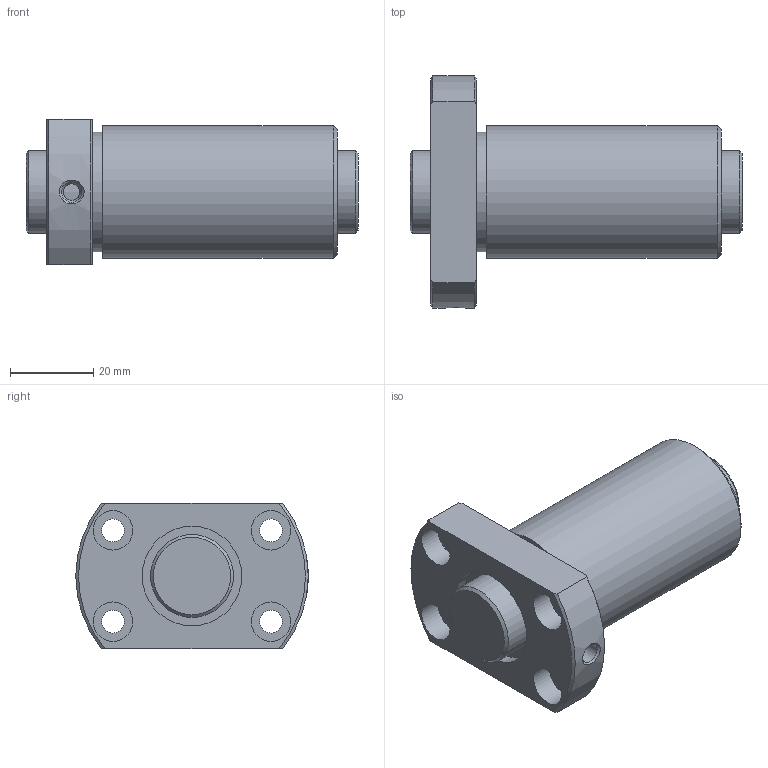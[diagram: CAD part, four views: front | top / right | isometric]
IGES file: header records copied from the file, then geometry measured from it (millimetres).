
Start section: Data from Parasolid IGES Translator 26.0.171, Copyright(c) 2006 Siemens PLM Software. All Rights Reserved.
Global section: file name: DIK2004-8RRG0+80LC0_000.igs; native system: By Siemens PLM Incorporated; preprocessor: XPlus GENERIC/IGES 26.0.171; author: Noname; organization: Noname; date: 20250113.094653; units: millimetre
Bounding box: 80 x 56 x 35 mm (x, y, z)
Surface area: 22040.2 mm2 (no closed solid volume)
Topology: 0 solids, 0 shells, 41 faces, 166 edges, 133 vertices
Faces by surface type: revolution 27, extrusion 14
